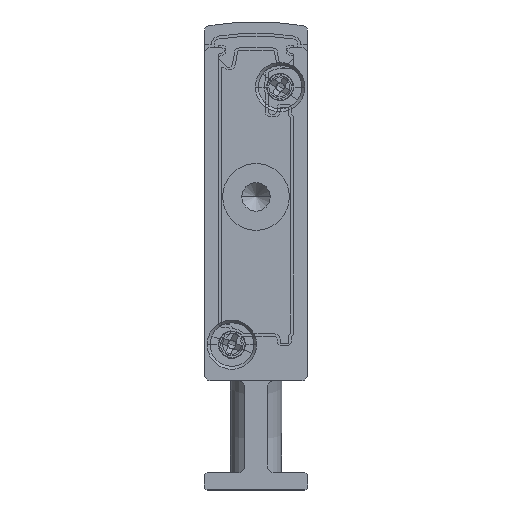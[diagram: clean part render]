
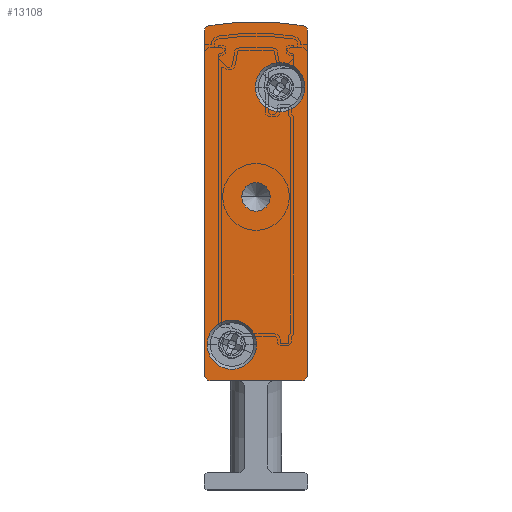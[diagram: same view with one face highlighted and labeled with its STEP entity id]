
A CAD part, front view. The second image highlights one B-rep face of the part: STEP entity #13108.
In plain terms, the highlighted planar face has unit normal (0, -1, 0).
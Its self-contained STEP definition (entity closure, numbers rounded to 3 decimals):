
#153 = CIRCLE ( 'NONE', #10064, 2.15 ) ;
#224 = AXIS2_PLACEMENT_3D ( 'NONE', #10931, #2176, #14154 ) ;
#233 = ORIENTED_EDGE ( 'NONE', *, *, #15126, .F. ) ;
#383 = VERTEX_POINT ( 'NONE', #18318 ) ;
#410 = ORIENTED_EDGE ( 'NONE', *, *, #16669, .F. ) ;
#418 = AXIS2_PLACEMENT_3D ( 'NONE', #16069, #2610, #11632 ) ;
#597 = DIRECTION ( 'NONE',  ( 1., 0., 0. ) ) ;
#667 = EDGE_CURVE ( 'NONE', #6988, #12211, #2689, .T. ) ;
#709 = CARTESIAN_POINT ( 'NONE',  ( 8.75, -2.5, 35.05 ) ) ;
#790 = DIRECTION ( 'NONE',  ( -1., 0., 0. ) ) ;
#1002 = EDGE_LOOP ( 'NONE', ( #10185, #17262 ) ) ;
#1332 = FACE_BOUND ( 'NONE', #1002, .T. ) ;
#1569 = EDGE_CURVE ( 'NONE', #12211, #13615, #4724, .T. ) ;
#1833 = AXIS2_PLACEMENT_3D ( 'NONE', #11086, #11230, #597 ) ;
#1892 = DIRECTION ( 'NONE',  ( -1., 0., 0. ) ) ;
#2071 = CARTESIAN_POINT ( 'NONE',  ( 0.408, -2.5, 40.393 ) ) ;
#2176 = DIRECTION ( 'NONE',  ( 0., 1., 0. ) ) ;
#2250 = CARTESIAN_POINT ( 'NONE',  ( 4.5, -2.5, 25.5 ) ) ;
#2272 = CARTESIAN_POINT ( 'NONE',  ( 0., -2.5, 10. ) ) ;
#2354 = DIRECTION ( 'NONE',  ( 0., -1., 0. ) ) ;
#2364 = VERTEX_POINT ( 'NONE', #11791 ) ;
#2610 = DIRECTION ( 'NONE',  ( 0., 1., 0. ) ) ;
#2689 = LINE ( 'NONE', #10380, #12332 ) ;
#2948 = CIRCLE ( 'NONE', #4634, 1.25 ) ;
#3025 = ORIENTED_EDGE ( 'NONE', *, *, #14180, .F. ) ;
#3132 = EDGE_CURVE ( 'NONE', #3975, #13558, #9552, .T. ) ;
#3225 = EDGE_CURVE ( 'NONE', #11053, #10123, #11895, .T. ) ;
#3418 = DIRECTION ( 'NONE',  ( 0., -1., 0. ) ) ;
#3566 = DIRECTION ( 'NONE',  ( 0., 1., 0. ) ) ;
#3575 = VERTEX_POINT ( 'NONE', #4123 ) ;
#3704 = FACE_BOUND ( 'NONE', #9708, .T. ) ;
#3975 = VERTEX_POINT ( 'NONE', #2071 ) ;
#4002 = EDGE_CURVE ( 'NONE', #383, #3975, #4564, .T. ) ;
#4056 = EDGE_CURVE ( 'NONE', #10123, #11053, #17173, .T. ) ;
#4114 = CARTESIAN_POINT ( 'NONE',  ( 8.5, -2.5, 39.902 ) ) ;
#4119 = CARTESIAN_POINT ( 'NONE',  ( 4.55, -2.5, 12.65 ) ) ;
#4123 = CARTESIAN_POINT ( 'NONE',  ( 0.5, -2.5, 9.5 ) ) ;
#4464 = EDGE_CURVE ( 'NONE', #13615, #3575, #14695, .T. ) ;
#4564 = CIRCLE ( 'NONE', #418, 0.5 ) ;
#4634 = AXIS2_PLACEMENT_3D ( 'NONE', #2250, #6654, #14290 ) ;
#4703 = CARTESIAN_POINT ( 'NONE',  ( 0.5, -2.5, 9.5 ) ) ;
#4724 = CIRCLE ( 'NONE', #10972, 0.5 ) ;
#4922 = CARTESIAN_POINT ( 'NONE',  ( 6.6, -2.5, 35.05 ) ) ;
#5100 = ORIENTED_EDGE ( 'NONE', *, *, #1569, .F. ) ;
#5523 = DIRECTION ( 'NONE',  ( -1., 0., 0. ) ) ;
#5691 = CARTESIAN_POINT ( 'NONE',  ( 3.25, -2.5, 25.5 ) ) ;
#5993 = CARTESIAN_POINT ( 'NONE',  ( 4.5, -2.5, 25.5 ) ) ;
#6390 = DIRECTION ( 'NONE',  ( 0., -1., 0. ) ) ;
#6464 = ORIENTED_EDGE ( 'NONE', *, *, #4464, .F. ) ;
#6654 = DIRECTION ( 'NONE',  ( 0., 1., 0. ) ) ;
#6837 = CIRCLE ( 'NONE', #12333, 1.25 ) ;
#6941 = ORIENTED_EDGE ( 'NONE', *, *, #4002, .F. ) ;
#6988 = VERTEX_POINT ( 'NONE', #10722 ) ;
#7799 = DIRECTION ( 'NONE',  ( 0., 0., 1. ) ) ;
#7968 = DIRECTION ( 'NONE',  ( 1., 0., 0. ) ) ;
#8221 = AXIS2_PLACEMENT_3D ( 'NONE', #15032, #16655, #11919 ) ;
#8237 = EDGE_LOOP ( 'NONE', ( #6941, #410, #15000, #6464, #5100, #9250, #18230, #16471 ) ) ;
#8748 = EDGE_CURVE ( 'NONE', #3575, #16822, #19304, .T. ) ;
#9084 = EDGE_LOOP ( 'NONE', ( #3025, #233 ) ) ;
#9147 = EDGE_CURVE ( 'NONE', #13558, #6988, #18182, .T. ) ;
#9250 = ORIENTED_EDGE ( 'NONE', *, *, #667, .F. ) ;
#9457 = CARTESIAN_POINT ( 'NONE',  ( 8.5, -2.5, 9.5 ) ) ;
#9552 = CIRCLE ( 'NONE', #8221, 23.658 ) ;
#9708 = EDGE_LOOP ( 'NONE', ( #14972, #17851 ) ) ;
#9949 = VECTOR ( 'NONE', #7799, 1000. ) ;
#9989 = AXIS2_PLACEMENT_3D ( 'NONE', #11530, #13063, #5523 ) ;
#10064 = AXIS2_PLACEMENT_3D ( 'NONE', #4922, #3418, #7968 ) ;
#10123 = VERTEX_POINT ( 'NONE', #4119 ) ;
#10151 = VERTEX_POINT ( 'NONE', #5691 ) ;
#10185 = ORIENTED_EDGE ( 'NONE', *, *, #18215, .T. ) ;
#10380 = CARTESIAN_POINT ( 'NONE',  ( 9., -2.5, 39.902 ) ) ;
#10722 = CARTESIAN_POINT ( 'NONE',  ( 9., -2.5, 39.902 ) ) ;
#10759 = FACE_OUTER_BOUND ( 'NONE', #8237, .T. ) ;
#10860 = CARTESIAN_POINT ( 'NONE',  ( 4.45, -2.5, 35.05 ) ) ;
#10931 = CARTESIAN_POINT ( 'NONE',  ( 0.5, -2.5, 39.902 ) ) ;
#10972 = AXIS2_PLACEMENT_3D ( 'NONE', #11210, #3566, #790 ) ;
#11053 = VERTEX_POINT ( 'NONE', #12105 ) ;
#11086 = CARTESIAN_POINT ( 'NONE',  ( 6.6, -2.5, 35.05 ) ) ;
#11210 = CARTESIAN_POINT ( 'NONE',  ( 8.5, -2.5, 10. ) ) ;
#11230 = DIRECTION ( 'NONE',  ( 0., -1., 0. ) ) ;
#11530 = CARTESIAN_POINT ( 'NONE',  ( 0.5, -2.5, 10. ) ) ;
#11632 = DIRECTION ( 'NONE',  ( -1., 0., 0. ) ) ;
#11706 = DIRECTION ( 'NONE',  ( -1., 0., 0. ) ) ;
#11740 = AXIS2_PLACEMENT_3D ( 'NONE', #4114, #14681, #11706 ) ;
#11791 = CARTESIAN_POINT ( 'NONE',  ( 5.75, -2.5, 25.5 ) ) ;
#11856 = DIRECTION ( 'NONE',  ( -1., 0., 0. ) ) ;
#11895 = CIRCLE ( 'NONE', #13694, 2.15 ) ;
#11919 = DIRECTION ( 'NONE',  ( -1., 0., 0. ) ) ;
#12105 = CARTESIAN_POINT ( 'NONE',  ( 0.25, -2.5, 12.65 ) ) ;
#12182 = PLANE ( 'NONE',  #224 ) ;
#12211 = VERTEX_POINT ( 'NONE', #14657 ) ;
#12322 = VECTOR ( 'NONE', #1892, 1000. ) ;
#12332 = VECTOR ( 'NONE', #13232, 1000. ) ;
#12333 = AXIS2_PLACEMENT_3D ( 'NONE', #5993, #16377, #11856 ) ;
#12434 = DIRECTION ( 'NONE',  ( 1., 0., 0. ) ) ;
#12897 = DIRECTION ( 'NONE',  ( 1., 0., 0. ) ) ;
#13063 = DIRECTION ( 'NONE',  ( 0., 1., 0. ) ) ;
#13108 = ADVANCED_FACE ( 'NONE', ( #14795, #3704, #10759, #1332 ), #12182, .F. ) ;
#13232 = DIRECTION ( 'NONE',  ( 0., 0., -1. ) ) ;
#13489 = CARTESIAN_POINT ( 'NONE',  ( 8.592, -2.5, 40.393 ) ) ;
#13558 = VERTEX_POINT ( 'NONE', #13489 ) ;
#13615 = VERTEX_POINT ( 'NONE', #9457 ) ;
#13694 = AXIS2_PLACEMENT_3D ( 'NONE', #18467, #6390, #12434 ) ;
#14154 = DIRECTION ( 'NONE',  ( -1., 0., 0. ) ) ;
#14180 = EDGE_CURVE ( 'NONE', #19258, #15123, #16972, .T. ) ;
#14290 = DIRECTION ( 'NONE',  ( -1., 0., 0. ) ) ;
#14657 = CARTESIAN_POINT ( 'NONE',  ( 9., -2.5, 10. ) ) ;
#14681 = DIRECTION ( 'NONE',  ( 0., 1., 0. ) ) ;
#14695 = LINE ( 'NONE', #4703, #12322 ) ;
#14795 = FACE_BOUND ( 'NONE', #9084, .T. ) ;
#14861 = EDGE_CURVE ( 'NONE', #2364, #10151, #6837, .T. ) ;
#14972 = ORIENTED_EDGE ( 'NONE', *, *, #4056, .F. ) ;
#15000 = ORIENTED_EDGE ( 'NONE', *, *, #8748, .F. ) ;
#15032 = CARTESIAN_POINT ( 'NONE',  ( 4.5, -2.5, 17.092 ) ) ;
#15123 = VERTEX_POINT ( 'NONE', #10860 ) ;
#15126 = EDGE_CURVE ( 'NONE', #15123, #19258, #153, .T. ) ;
#16069 = CARTESIAN_POINT ( 'NONE',  ( 0.5, -2.5, 39.902 ) ) ;
#16377 = DIRECTION ( 'NONE',  ( 0., 1., 0. ) ) ;
#16471 = ORIENTED_EDGE ( 'NONE', *, *, #3132, .F. ) ;
#16655 = DIRECTION ( 'NONE',  ( 0., 1., 0. ) ) ;
#16669 = EDGE_CURVE ( 'NONE', #16822, #383, #18028, .T. ) ;
#16822 = VERTEX_POINT ( 'NONE', #2272 ) ;
#16972 = CIRCLE ( 'NONE', #1833, 2.15 ) ;
#17173 = CIRCLE ( 'NONE', #18718, 2.15 ) ;
#17235 = CARTESIAN_POINT ( 'NONE',  ( 0., -2.5, 39.902 ) ) ;
#17262 = ORIENTED_EDGE ( 'NONE', *, *, #14861, .T. ) ;
#17851 = ORIENTED_EDGE ( 'NONE', *, *, #3225, .F. ) ;
#18028 = LINE ( 'NONE', #17235, #9949 ) ;
#18182 = CIRCLE ( 'NONE', #11740, 0.5 ) ;
#18215 = EDGE_CURVE ( 'NONE', #10151, #2364, #2948, .T. ) ;
#18230 = ORIENTED_EDGE ( 'NONE', *, *, #9147, .F. ) ;
#18318 = CARTESIAN_POINT ( 'NONE',  ( 0., -2.5, 39.902 ) ) ;
#18467 = CARTESIAN_POINT ( 'NONE',  ( 2.4, -2.5, 12.65 ) ) ;
#18718 = AXIS2_PLACEMENT_3D ( 'NONE', #19035, #2354, #12897 ) ;
#19035 = CARTESIAN_POINT ( 'NONE',  ( 2.4, -2.5, 12.65 ) ) ;
#19258 = VERTEX_POINT ( 'NONE', #709 ) ;
#19304 = CIRCLE ( 'NONE', #9989, 0.5 ) ;
